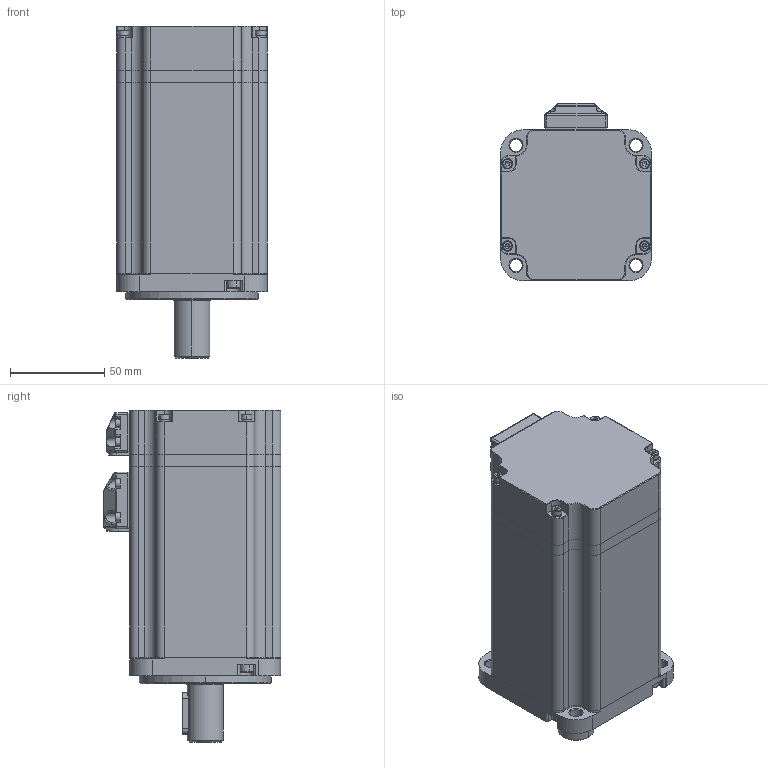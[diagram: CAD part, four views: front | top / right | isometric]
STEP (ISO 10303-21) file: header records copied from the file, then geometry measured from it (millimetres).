
FILE_DESCRIPTION (( 'STEP AP203' ), '1' );
FILE_NAME ('9.7470-SMC80S-0075-30QBK-5DSU.STEP', '2021-10-28T04:55:20', ( '' ), ( '' ), 'SwSTEP 2.0', 'SolidWorks 2018', '' );
FILE_SCHEMA (( 'CONFIG_CONTROL_DESIGN' ));
Products named in the file (1): 9.7470-SMC80S-0075-30QBK-5DSU
Bounding box: 80 x 94 x 176 mm (x, y, z)
Volume: 398316.1 mm3; surface area: 229831.9 mm2
Topology: 65 solids, 65 shells, 2972 faces, 7986 edges, 5059 vertices
Faces by surface type: cylinder 1279, plane 995, torus 230, sphere 202, bspline 136, cone 130
Entity records: 99456 total; most frequent: CARTESIAN_POINT 25330, DIRECTION 15802, ORIENTED_EDGE 15540, EDGE_CURVE 7770, AXIS2_PLACEMENT_3D 6198, VERTEX_POINT 5009, LINE 3406, VECTOR 3406
